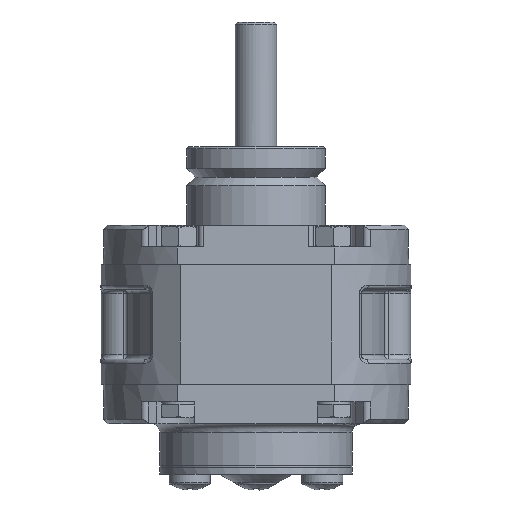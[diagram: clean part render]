
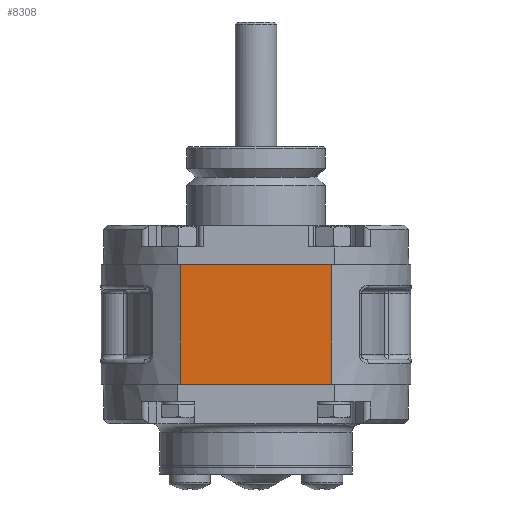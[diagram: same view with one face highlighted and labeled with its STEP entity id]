
A CAD part, front view. The second image highlights one B-rep face of the part: STEP entity #8308.
In plain terms, the highlighted planar face has unit normal (0, -1, 0).
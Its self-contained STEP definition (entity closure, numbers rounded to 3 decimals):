
#639 = EDGE_CURVE ( 'NONE', #8953, #7733, #16180, .T. ) ;
#1055 = CARTESIAN_POINT ( 'NONE',  ( 17.299, -31., 13.68 ) ) ;
#2830 = CARTESIAN_POINT ( 'NONE',  ( 17.299, -31., 13.68 ) ) ;
#3910 = CARTESIAN_POINT ( 'NONE',  ( -17.299, -31., 13.68 ) ) ;
#4820 = AXIS2_PLACEMENT_3D ( 'NONE', #19938, #18366, #8835 ) ;
#5155 = ORIENTED_EDGE ( 'NONE', *, *, #639, .F. ) ;
#5187 = DIRECTION ( 'NONE',  ( 1., 0., 0. ) ) ;
#6041 = DIRECTION ( 'NONE',  ( 0., 0., 1. ) ) ;
#6808 = VECTOR ( 'NONE', #5187, 1000. ) ;
#7733 = VERTEX_POINT ( 'NONE', #2830 ) ;
#8308 = ADVANCED_FACE ( 'NONE', ( #8739 ), #14944, .F. ) ;
#8583 = VECTOR ( 'NONE', #6041, 1000. ) ;
#8739 = FACE_OUTER_BOUND ( 'NONE', #11699, .T. ) ;
#8835 = DIRECTION ( 'NONE',  ( 0., 0., 1. ) ) ;
#8953 = VERTEX_POINT ( 'NONE', #3910 ) ;
#9759 = ORIENTED_EDGE ( 'NONE', *, *, #11790, .F. ) ;
#10272 = ORIENTED_EDGE ( 'NONE', *, *, #19113, .F. ) ;
#10388 = CARTESIAN_POINT ( 'NONE',  ( -17.299, -31., -13.68 ) ) ;
#10399 = VECTOR ( 'NONE', #16971, 1000. ) ;
#10972 = CARTESIAN_POINT ( 'NONE',  ( 17.299, -31., -13.68 ) ) ;
#11214 = ORIENTED_EDGE ( 'NONE', *, *, #14301, .F. ) ;
#11699 = EDGE_LOOP ( 'NONE', ( #11214, #9759, #5155, #10272 ) ) ;
#11790 = EDGE_CURVE ( 'NONE', #7733, #14692, #16722, .T. ) ;
#12048 = CARTESIAN_POINT ( 'NONE',  ( -17.299, -31., 56.32 ) ) ;
#12144 = DIRECTION ( 'NONE',  ( 0., 0., -1. ) ) ;
#14073 = CARTESIAN_POINT ( 'NONE',  ( 17.299, -31., -13.68 ) ) ;
#14301 = EDGE_CURVE ( 'NONE', #14692, #17578, #15606, .T. ) ;
#14692 = VERTEX_POINT ( 'NONE', #14073 ) ;
#14821 = CARTESIAN_POINT ( 'NONE',  ( 0., -31., 13.68 ) ) ;
#14944 = PLANE ( 'NONE',  #4820 ) ;
#15606 = LINE ( 'NONE', #10972, #10399 ) ;
#16180 = LINE ( 'NONE', #14821, #6808 ) ;
#16722 = LINE ( 'NONE', #1055, #17168 ) ;
#16971 = DIRECTION ( 'NONE',  ( -1., 0., 0. ) ) ;
#17168 = VECTOR ( 'NONE', #12144, 1000. ) ;
#17578 = VERTEX_POINT ( 'NONE', #10388 ) ;
#18366 = DIRECTION ( 'NONE',  ( 0., 1., 0. ) ) ;
#19113 = EDGE_CURVE ( 'NONE', #17578, #8953, #19563, .T. ) ;
#19563 = LINE ( 'NONE', #12048, #8583 ) ;
#19938 = CARTESIAN_POINT ( 'NONE',  ( 17.299, -31., 56.32 ) ) ;
